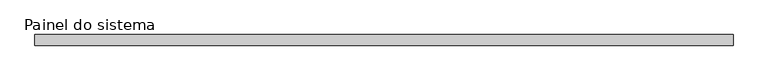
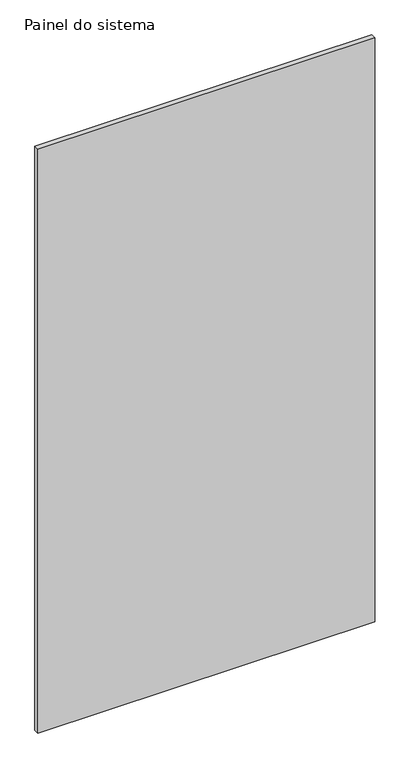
"""IFC4 building model written with IfcOpenShell, lengths in millimetres: plate geometry, Painel do sistema : Envidraçado."""

from ifc_helpers import new_model, si_unit, origin, origin_with_axes, place, context, project, spatial, polyline, outline, extrude, source, transform, mapped, element, save


def painel_do_sistema_1ecb5f42(model_context):
    return source(origin(), model_context, "Body", "SweptSolid", [
        extrude(outline(polyline([(634.5833333, -10.0), (-634.5833333, -10.0), (-634.5833333, 10.0), (634.5833333, 10.0), (634.5833333, -10.0)])), origin_with_axes(), (0.0, 0.0, 1.0), 2325.0),
    ])


if __name__ == "__main__":
    model = new_model("IFC4")
    model_context = context("Model", 3, world=origin())
    ifc_project = project(units=[si_unit("LENGTHUNIT", "METRE", prefix="MILLI")], contexts=[model_context])
    site = spatial("IfcSite", under=ifc_project)
    building = spatial("IfcBuilding", under=site)
    placement = place(None, origin())
    painel_do_sistema_shape = painel_do_sistema_1ecb5f42(model_context)
    element("IfcPlate", 1, ObjectType="Painel do sistema : Envidraçado", at=placement, inside=building, context=model_context, shape_type="MappedRepresentation", body=[
        mapped(painel_do_sistema_shape, transform((0.0, 0.0, 0.0), x_axis=(1.0, 0.0, 0.0), y_axis=(0.0, 1.0, 0.0), z_axis=(0.0, 0.0, 1.0))),
    ])
    save(model, "model.ifc")
